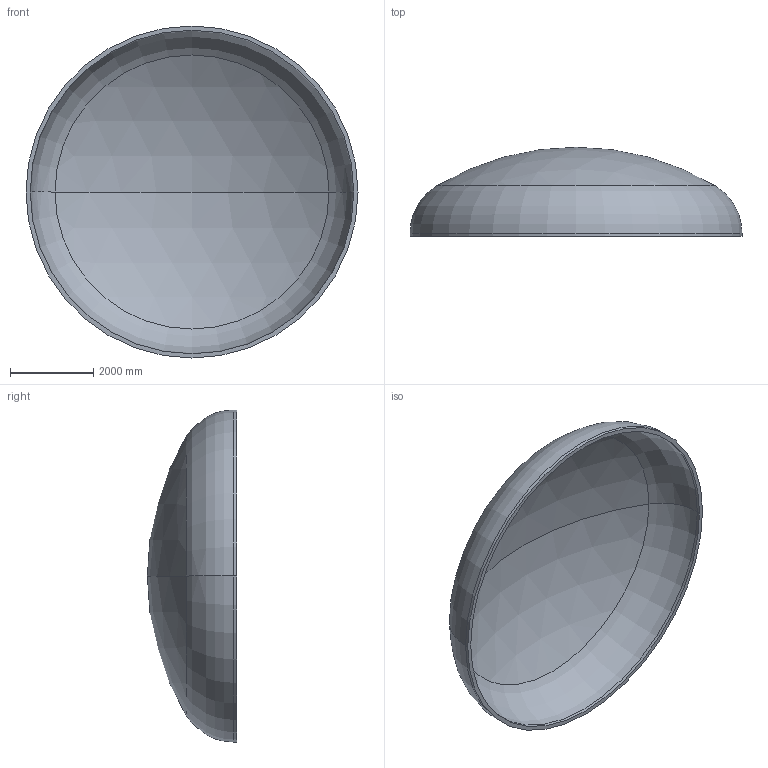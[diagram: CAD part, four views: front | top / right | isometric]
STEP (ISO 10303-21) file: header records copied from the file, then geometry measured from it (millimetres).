
FILE_DESCRIPTION (( 'STEP AP203' ), '1' );
FILE_NAME ('DIN 28013 Korbbogenform_-_Boden DIN 28013 - 8000 x 75 - I - s=102.step', '2016-07-04T11:05:15', ( '' ), ( '' ), 'SwSTEP 2.0', 'SolidWorks 2013', '' );
FILE_SCHEMA (( 'CONFIG_CONTROL_DESIGN' ));
Length unit declared in the file: millimetre
Products named in the file (1): DIN 28013 Korbbogenform_-_Boden DIN 28013 - 8000 x 75 - I - s=102
Bounding box: 8000 x 2148.61 x 8000 mm (x, y, z)
Volume: 7169839067.8 mm3; surface area: 143137669.6 mm2
Topology: 1 solids, 1 shells, 13 faces, 24 edges, 14 vertices
Faces by surface type: torus 4, cylinder 4, sphere 4, plane 1
Entity records: 407 total; most frequent: DIRECTION 72, CARTESIAN_POINT 52, ORIENTED_EDGE 48, AXIS2_PLACEMENT_3D 34, EDGE_CURVE 24, CIRCLE 20, VERTEX_POINT 14, EDGE_LOOP 14
